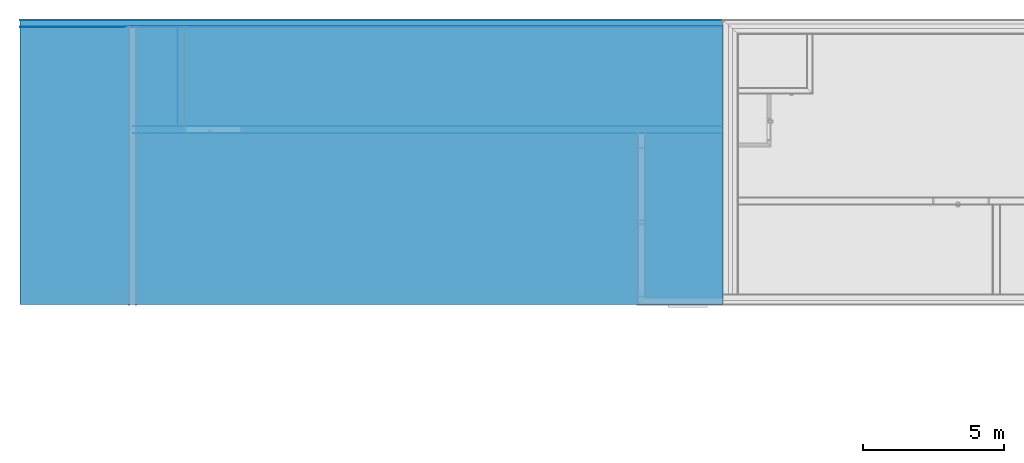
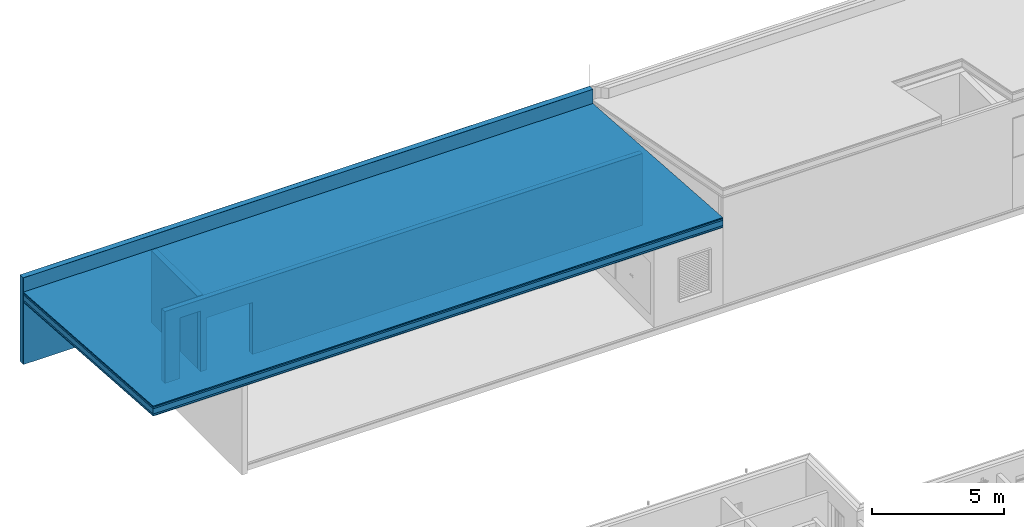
# One storey, part 23 of 62: 14 building element parts, 2 openings, 4 elements without a shape of their own.
"""IFC2X3 building model written with IfcOpenShell, lengths in millimetres."""

from ifc_helpers import new_model, entity, si_unit, converted_unit, derived_unit, money_unit, direction, frame, origin_with_axes, origin_2d_with_axis, place, context, subcontext, project, spatial, polyline, rectangle, outline, extrude, clip, bounded_halfspace, material, type_object, element, aggregate, save


model = new_model("IFC2X3")

# Units and contexts
model_context = context("Model", 3, precision=0.01, world=origin_with_axes(), true_north=direction((0.0, 1.0)))
body_context = subcontext(model_context, "Body", "Model", "MODEL_VIEW")
ifc_project = project(units=[si_unit("LENGTHUNIT", "METRE", prefix="MILLI"), si_unit("AREAUNIT", "SQUARE_METRE"), si_unit("VOLUMEUNIT", "CUBIC_METRE"), converted_unit("PLANEANGLEUNIT", "DEGREE", entity("IfcPlaneAngleMeasure", 0.0174532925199), si_unit("PLANEANGLEUNIT", "RADIAN"), dimensions=[0, 0, 0, 0, 0, 0, 0]), si_unit("SOLIDANGLEUNIT", "STERADIAN"), money_unit("EUR"), converted_unit("TIMEUNIT", "Year", entity("IfcTimeMeasure", 31556926.0), si_unit("TIMEUNIT", "SECOND"), dimensions=[0, 0, 1, 0, 0, 0, 0]), si_unit("MASSUNIT", "GRAM", prefix="KILO"), si_unit("THERMODYNAMICTEMPERATUREUNIT", "DEGREE_CELSIUS"), si_unit("LUMINOUSINTENSITYUNIT", "LUMEN"), si_unit("ENERGYUNIT", "JOULE", prefix="MEGA"), derived_unit("THERMALCONDUCTANCEUNIT", [(si_unit("POWERUNIT", "WATT"), 1), (si_unit("LENGTHUNIT", "METRE"), -1), (si_unit("THERMODYNAMICTEMPERATUREUNIT", "KELVIN"), -1)]), derived_unit("SPECIFICHEATCAPACITYUNIT", [(si_unit("ENERGYUNIT", "JOULE"), 1), (si_unit("MASSUNIT", "GRAM", prefix="KILO"), -1), (si_unit("THERMODYNAMICTEMPERATUREUNIT", "KELVIN"), -1)]), derived_unit("MASSDENSITYUNIT", [(si_unit("MASSUNIT", "GRAM", prefix="KILO"), 1), (si_unit("VOLUMEUNIT", "CUBIC_METRE"), -1)])], contexts=[model_context])

# Site, building, storey
site_placement = place(None, origin_with_axes())
site = spatial("IfcSite", under=ifc_project, at=site_placement, Name="KIRDE 14, ELVA", CompositionType="ELEMENT")
building_placement = place(site_placement, origin_with_axes())
building = spatial("IfcBuilding", under=site, at=building_placement, Name="PPA ja Päästeameti ühishoone", CompositionType="ELEMENT")
storey_placement = place(building_placement, origin_with_axes())
storey = spatial("IfcBuildingStorey", under=building, at=storey_placement, Name="Esimene korrus", CompositionType="ELEMENT", Elevation=0.0)

# Slab, building element parts
slab_type = type_object("IfcSlabType", Name="GKK-01_Geneeriline Katus/Koorik 465", PredefinedType="ROOF")
slab_placement = place(storey_placement, frame((-6351.41834349, 49345.2929949, 2882.53055421), z_axis=(0.0, 0.0, 1.0), x_axis=(1.0, 4.11766995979e-10, 0.0)))
slab = element("IfcSlab", 1, at=slab_placement, inside=storey, type_object=slab_type, Name="KATUS", PredefinedType="ROOF")
ifc_material_1 = material(Name="Laudis")
building_element_part_1_placement = place(slab_placement, origin_with_axes())
building_element_part_1 = element("IfcBuildingElementPart", 2, at=building_element_part_1_placement, material=ifc_material_1, Name="Laudis", context=body_context, shape_type="SweptSolid", body=[
    extrude(outline(polyline([(-870.413146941, 3.26299703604), (-4590.98340748, 3.2629892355), (-4590.98340792, -9835.10763112), (20255.3914715, -9835.10763121), (20255.3914715, 53.3871250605), (-870.413147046, 53.3871337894), (-870.413146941, 3.26299703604)])), frame((0.0, 0.0, 0.0), z_axis=(0.0, 0.0703423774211, 0.997522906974), x_axis=(1.0, 0.0, 0.0)), (0.0, -0.0703423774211, 0.997522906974), 25.0620811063),
])
ifc_material_2 = material(Name="Tuulutusvahe (2)")
building_element_part_2_placement = place(slab_placement, origin_with_axes())
building_element_part_2 = element("IfcBuildingElementPart", 3, at=building_element_part_2_placement, material=ifc_material_2, Name="Tuulutusvahe (2)", context=body_context, shape_type="SweptSolid", body=[
    extrude(outline(polyline([(-870.413146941, 3.26299703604), (-4590.98340748, 3.2629892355), (-4590.98340792, -9835.10763112), (20255.3914715, -9835.10763121), (20255.3914715, 53.3871250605), (-870.413147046, 53.3871337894), (-870.413146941, 3.26299703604)])), frame((0.0, 0.0, 25.0620811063), z_axis=(0.0, 0.0703423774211, 0.997522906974), x_axis=(1.0, 0.0, 0.0)), (0.0, -0.0703423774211, 0.997522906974), 75.1862433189),
])
ifc_material_3 = material(Name="ET-00_GENEERILINE - EHITUSTOODE")
building_element_part_3_placement = place(slab_placement, origin_with_axes())
building_element_part_3 = element("IfcBuildingElementPart", 4, at=building_element_part_3_placement, material=ifc_material_3, Name="ET-00_GENEERILINE - EHITUSTOODE", context=body_context, shape_type="SweptSolid", body=[
    extrude(outline(polyline([(-870.413146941, 3.26299703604), (-4590.98340748, 3.2629892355), (-4590.98340792, -9835.10763112), (20255.3914715, -9835.10763121), (20255.3914715, 53.3871250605), (-870.413147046, 53.3871337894), (-870.413146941, 3.26299703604)])), frame((0.0, 0.0, 100.248324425), z_axis=(0.0, 0.0703423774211, 0.997522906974), x_axis=(1.0, 0.0, 0.0)), (0.0, -0.0703423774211, 0.997522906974), 240.595978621),
])
ifc_material_4 = material(Name="Profiilplekk")
building_element_part_4_placement = place(slab_placement, origin_with_axes())
building_element_part_4 = element("IfcBuildingElementPart", 5, at=building_element_part_4_placement, material=ifc_material_4, Name="Profiilplekk", context=body_context, shape_type="SweptSolid", body=[
    extrude(outline(polyline([(-870.413146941, 3.26299703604), (-4590.98340748, 3.2629892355), (-4590.98340792, -9835.10763112), (20255.3914715, -9835.10763121), (20255.3914715, 53.3871250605), (-870.413147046, 53.3871337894), (-870.413146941, 3.26299703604)])), frame((0.0, 0.0, 340.844303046), z_axis=(0.0, 0.0703423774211, 0.997522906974), x_axis=(1.0, 0.0, 0.0)), (0.0, -0.0703423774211, 0.997522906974), 70.1738270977),
])
ifc_material_5 = material(Name="Vahtpolüstüreen (4)")
building_element_part_5_placement = place(slab_placement, origin_with_axes())
building_element_part_5 = element("IfcBuildingElementPart", 6, at=building_element_part_5_placement, material=ifc_material_5, Name="Vahtpolüstüreen (4)", context=body_context, shape_type="SweptSolid", body=[
    extrude(outline(polyline([(-870.413146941, 3.26299703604), (-4590.98340748, 3.2629892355), (-4590.98340792, -9835.10763112), (20255.3914715, -9835.10763121), (20255.3914715, 53.3871250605), (-870.413147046, 53.3871337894), (-870.413146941, 3.26299703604)])), frame((0.0, 0.0, 411.018130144), z_axis=(0.0, 0.0703423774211, 0.997522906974), x_axis=(1.0, 0.0, 0.0)), (0.0, -0.0703423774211, 0.997522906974), 50.1241622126),
])
ifc_material_6 = material(Name="SBS Rullmaterjal")
building_element_part_6_placement = place(slab_placement, origin_with_axes())
building_element_part_6 = element("IfcBuildingElementPart", 7, at=building_element_part_6_placement, material=ifc_material_6, Name="SBS Rullmaterjal", context=body_context, shape_type="SweptSolid", body=[
    extrude(outline(polyline([(-870.413146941, 3.26299703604), (-4590.98340748, 3.2629892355), (-4590.98340792, -9835.10763112), (20255.3914715, -9835.10763121), (20255.3914715, 53.3871250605), (-870.413147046, 53.3871337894), (-870.413146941, 3.26299703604)])), frame((0.0, 0.0, 461.142292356), z_axis=(0.0, 0.0703423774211, 0.997522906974), x_axis=(1.0, 0.0, 0.0)), (0.0, -0.0703423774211, 0.997522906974), 5.01241622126),
])
aggregate(slab, [building_element_part_1, building_element_part_2, building_element_part_3, building_element_part_4, building_element_part_5, building_element_part_6])

# Proxy, openings, building element parts
building_element_proxy_type_1 = type_object("IfcBuildingElementProxyType", Name="A-VS02 250", PredefinedType="NOTDEFINED")
proxy_1_placement = place(storey_placement, frame((-6935.83148904, 45593.5478741, 0.0), z_axis=(0.0, 0.0, 1.0), x_axis=(1.0, 0.0, 0.0)))
proxy_1 = element("IfcBuildingElementProxy", 8, at=proxy_1_placement, inside=storey, type_object=building_element_proxy_type_1, Name="VS-06")
opening_1_placement = place(proxy_1_placement, frame((2822.73408948, 0.0, 0.0), z_axis=(0.0, 0.0, 1.0), x_axis=(1.0, 0.0, 0.0)))
element("IfcOpeningElement", 9, at=opening_1_placement, cuts=proxy_1, Name="VUA-02", context=body_context, shape_type="SweptSolid", body=[
    extrude(rectangle(XDim=2000.0, YDim=2400.0, at=origin_2d_with_axis()), frame((0.0, -250.0, 1200.0), z_axis=(0.0, -1.0, 0.0), x_axis=(1.0, 0.0, 0.0)), (0.0, 0.0, -1.0), 750.0),
])
opening_2_placement = place(proxy_1_placement, frame((1112.73408948, 0.0, 0.0), z_axis=(0.0, 0.0, 1.0), x_axis=(1.0, 0.0, 0.0)))
element("IfcOpeningElement", 10, at=opening_2_placement, cuts=proxy_1, Name="VU-03", context=body_context, shape_type="SweptSolid", body=[
    extrude(rectangle(XDim=900.0, YDim=2800.0, at=origin_2d_with_axis()), frame((0.0, 250.0, 1400.0), z_axis=(0.0, -1.0, 0.0), x_axis=(-1.0, 0.0, 0.0)), (0.0, 0.0, 1.0), 750.0),
])
ifc_material_7 = material(Name="Krohv")
building_element_part_7_placement = place(proxy_1_placement, origin_with_axes())
building_element_part_7 = element("IfcBuildingElementPart", 11, at=building_element_part_7_placement, material=ifc_material_7, Name="Krohv", context=body_context, shape_type="Clipping", body=[
    clip(clip(clip(extrude(outline(polyline([(0.0, 0.0), (20839.8046213, 0.0), (20839.8046213, 5.0), (0.0, 5.0), (0.0, 0.0)])), origin_with_axes(), (0.0, 0.0, 1.0), 3322.35109752), bounded_halfspace(frame((0.0, 233.123173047, 3305.91193797), z_axis=(0.0, -0.0703423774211, -0.997522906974), x_axis=(0.0, 0.997522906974, -0.0703423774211)), True, origin_with_axes(), polyline([(-286.01, -10.0), (17929.2621143, -10.0), (17929.2621143, 260.0), (-286.01, 260.0), (-286.01, -10.0)]))), bounded_halfspace(frame((0.0, 233.123173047, 3305.91193797), z_axis=(0.0, -0.0703423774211, -0.997522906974), x_axis=(0.0, 0.997522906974, -0.0703423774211)), True, origin_with_axes(), polyline([(-286.01, -10.0), (21374.8046144, -10.0), (21374.8046144, 260.0), (-286.01, 260.0), (-286.01, -10.0)]))), bounded_halfspace(frame((0.0, 737.288684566, 3741.47372863), z_axis=(0.0, -0.193340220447, -0.981131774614), x_axis=(0.0, 0.981131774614, -0.193340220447)), True, origin_with_axes(), polyline([(17929.2621143, -10.0), (38613.4632631, -10.0), (38613.4632631, 260.0), (17929.2621143, 260.0), (17929.2621143, -10.0)]))),
])
ifc_material_8 = material(Name="COLUMBIA KIVI (BETONEERITUD)")
building_element_part_8_placement = place(proxy_1_placement, origin_with_axes())
building_element_part_8 = element("IfcBuildingElementPart", 12, at=building_element_part_8_placement, material=ifc_material_8, Name="COLUMBIA KIVI (BETONEERITUD)", context=body_context, shape_type="Clipping", body=[
    clip(clip(clip(extrude(outline(polyline([(0.0, 5.0), (20839.8046213, 5.0), (20839.8046213, 245.0), (0.0, 245.0), (0.0, 5.0)])), origin_with_axes(), (0.0, 0.0, 1.0), 3322.35109752), bounded_halfspace(frame((0.0, 233.123173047, 3305.91193797), z_axis=(0.0, -0.0703423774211, -0.997522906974), x_axis=(0.0, 0.997522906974, -0.0703423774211)), True, origin_with_axes(), polyline([(-286.01, -10.0), (17929.2621143, -10.0), (17929.2621143, 260.0), (-286.01, 260.0), (-286.01, -10.0)]))), bounded_halfspace(frame((0.0, 233.123173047, 3305.91193797), z_axis=(0.0, -0.0703423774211, -0.997522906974), x_axis=(0.0, 0.997522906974, -0.0703423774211)), True, origin_with_axes(), polyline([(-286.01, -10.0), (21374.8046144, -10.0), (21374.8046144, 260.0), (-286.01, 260.0), (-286.01, -10.0)]))), bounded_halfspace(frame((0.0, 737.288684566, 3741.47372863), z_axis=(0.0, -0.193340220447, -0.981131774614), x_axis=(0.0, 0.981131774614, -0.193340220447)), True, origin_with_axes(), polyline([(17929.2621143, -10.0), (38613.4632631, -10.0), (38613.4632631, 260.0), (17929.2621143, 260.0), (17929.2621143, -10.0)]))),
])
building_element_part_9_placement = place(proxy_1_placement, origin_with_axes())
building_element_part_9 = element("IfcBuildingElementPart", 13, at=building_element_part_9_placement, material=ifc_material_7, Name="Krohv", context=body_context, shape_type="Clipping", body=[
    clip(clip(clip(extrude(outline(polyline([(0.0, 245.0), (20839.8046213, 245.0), (20839.8046213, 250.0), (0.0, 250.0), (0.0, 245.0)])), origin_with_axes(), (0.0, 0.0, 1.0), 3322.35109752), bounded_halfspace(frame((0.0, 233.123173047, 3305.91193797), z_axis=(0.0, -0.0703423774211, -0.997522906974), x_axis=(0.0, 0.997522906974, -0.0703423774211)), True, origin_with_axes(), polyline([(-286.01, -10.0), (17929.2621143, -10.0), (17929.2621143, 260.0), (-286.01, 260.0), (-286.01, -10.0)]))), bounded_halfspace(frame((0.0, 233.123173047, 3305.91193797), z_axis=(0.0, -0.0703423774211, -0.997522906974), x_axis=(0.0, 0.997522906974, -0.0703423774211)), True, origin_with_axes(), polyline([(-286.01, -10.0), (21374.8046144, -10.0), (21374.8046144, 260.0), (-286.01, 260.0), (-286.01, -10.0)]))), bounded_halfspace(frame((0.0, 737.288684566, 3741.47372863), z_axis=(0.0, -0.193340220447, -0.981131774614), x_axis=(0.0, 0.981131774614, -0.193340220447)), True, origin_with_axes(), polyline([(17929.2621143, -10.0), (38613.4632631, -10.0), (38613.4632631, 260.0), (17929.2621143, 260.0), (17929.2621143, -10.0)]))),
])
aggregate(proxy_1, [building_element_part_7, building_element_part_8, building_element_part_9])

# Proxy, building element parts
building_element_proxy_type_2 = type_object("IfcBuildingElementProxyType", Name="A-SS01 260", PredefinedType="NOTDEFINED")
proxy_2_placement = place(storey_placement, frame((-5113.09739957, 45593.5478741, 0.0), z_axis=(0.0, 0.0, 1.0), x_axis=(0.0, 1.0, 0.0)))
proxy_2 = element("IfcBuildingElementProxy", 14, at=proxy_2_placement, inside=storey, type_object=building_element_proxy_type_2, Name="VS-06")
ifc_material_9 = material(Name="COLUMBIA KIVI")
building_element_part_10_placement = place(proxy_2_placement, origin_with_axes())
building_element_part_10 = element("IfcBuildingElementPart", 15, at=building_element_part_10_placement, material=ifc_material_9, Name="COLUMBIA KIVI", context=body_context, shape_type="SweptSolid", body=[
    extrude(outline(polyline([(250.0, 5.0), (3755.00002539, 5.0), (3755.00002539, 255.0), (250.0, 255.0), (250.0, 5.0)])), origin_with_axes(), (0.0, 0.0, 1.0), 3322.35109752),
])
building_element_part_11_placement = place(proxy_2_placement, origin_with_axes())
building_element_part_11 = element("IfcBuildingElementPart", 16, at=building_element_part_11_placement, material=ifc_material_7, Name="Krohv", context=body_context, shape_type="SweptSolid", body=[
    extrude(outline(polyline([(250.0, 255.0), (3755.00002539, 255.0), (3755.00002539, 260.0), (250.0, 260.0), (250.0, 255.0)])), origin_with_axes(), (0.0, 0.0, 1.0), 3322.35109752),
])
aggregate(proxy_2, [building_element_part_10, building_element_part_11])

# Wall, building element parts
wall_type = type_object("IfcWallType", Name="A-VS02 250", PredefinedType="NOTDEFINED")
wall_placement = place(storey_placement, frame((13903.9731322, 49598.5478995, 0.0), z_axis=(0.0, 0.0, 1.0), x_axis=(-1.0, 0.0, 0.0)))
wall = element("IfcWall", 17, at=wall_placement, inside=storey, type_object=wall_type, Name="A-VS02")
building_element_part_12_placement = place(wall_placement, origin_with_axes())
building_element_part_12 = element("IfcBuildingElementPart", 18, at=building_element_part_12_placement, material=ifc_material_7, Name="Krohv", context=body_context, shape_type="SweptSolid", body=[
    extrude(outline(polyline([(0.0, 0.0), (24846.3748785, 0.0), (24846.3748785, 5.0), (0.0, 5.0), (0.0, 0.0)])), origin_with_axes(), (0.0, 0.0, 1.0), 4000.0),
])
building_element_part_13_placement = place(wall_placement, origin_with_axes())
building_element_part_13 = element("IfcBuildingElementPart", 19, at=building_element_part_13_placement, material=ifc_material_8, Name="COLUMBIA KIVI (BETONEERITUD)", context=body_context, shape_type="SweptSolid", body=[
    extrude(outline(polyline([(0.0, 5.0), (24846.3748785, 5.0), (24846.3748785, 245.0), (0.0, 245.0), (0.0, 5.0)])), origin_with_axes(), (0.0, 0.0, 1.0), 4000.0),
])
building_element_part_14_placement = place(wall_placement, origin_with_axes())
building_element_part_14 = element("IfcBuildingElementPart", 20, at=building_element_part_14_placement, material=ifc_material_7, Name="Krohv", context=body_context, shape_type="SweptSolid", body=[
    extrude(outline(polyline([(0.0, 245.0), (24846.3748785, 245.0), (24846.3748785, 250.0), (0.0, 250.0), (0.0, 245.0)])), origin_with_axes(), (0.0, 0.0, 1.0), 4000.0),
])
aggregate(wall, [building_element_part_12, building_element_part_13, building_element_part_14])

save(model, "model.ifc")
